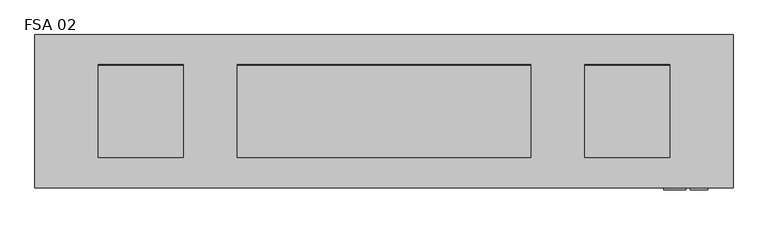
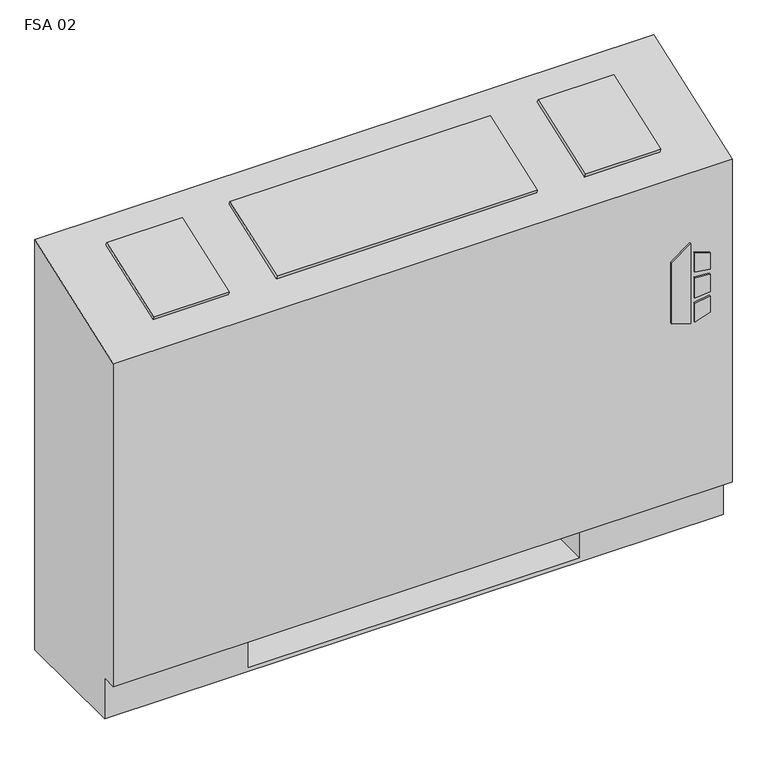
"""IFC4 building model written with IfcOpenShell, lengths in millimetres: proxy geometry, Vertical_Fan_Coil_Unit_-_FSA_-_IEC_-_2-Pipe_TS-FR_RH_2022 : FSA 02."""

from ifc_helpers import new_model, si_unit, point, frame, frame_2d, origin, place, context, project, spatial, polyline, circle_curve, trimmed, segment, composite_curve, outline, extrude, source, transform, mapped, element, save
from ifc_brep_helpers import plane_surface, revolved_surface, advanced_brep


def fsa_02_dba83e95(model_context):
    return source(origin(), model_context, "Body", "SolidModel", [
        extrude(outline(polyline([(391.6086829, 569.9868862), (381.6606126, 602.1602728), (523.831537, 602.1602728), (500.8095309, 569.9868862), (391.6086829, 569.9868862)])), frame((0.0, 12.7, 0.0), z_axis=(0.0, 1.0, 0.0), x_axis=(0.0, 0.0, 1.0)), (0.0, 0.0, 1.0), 3.175),
        extrude(outline(polyline([(470.6079683, 608.9186058), (467.4055757, 635.0), (496.6344168, 635.0), (504.6988318, 608.9186058), (470.6079683, 608.9186058)])), frame((0.0, 12.7, 0.0), z_axis=(0.0, 1.0, 0.0), x_axis=(0.0, 0.0, 1.0)), (0.0, 0.0, 1.0), 3.175),
        extrude(outline(polyline([(418.7444414, 635.0), (415.0789404, 608.9186058), (381.6606126, 608.9186058), (390.2948498, 635.0), (418.7444414, 635.0)])), frame((0.0, 12.7, 0.0), z_axis=(0.0, 1.0, 0.0), x_axis=(0.0, 0.0, 1.0)), (0.0, 0.0, 1.0), 3.175),
        extrude(outline(polyline([(458.0596028, 635.0), (460.3414292, 608.9186058), (424.4038806, 608.9186058), (427.1451456, 635.0), (458.0596028, 635.0)])), frame((0.0, 12.7, 0.0), z_axis=(0.0, 1.0, 0.0), x_axis=(0.0, 0.0, 1.0)), (0.0, 0.0, 1.0), 3.175),
        extrude(outline(polyline([(-247.65, 81.534), (-247.65, 223.266), (-127.0, 223.266), (-127.0, 81.534), (-247.65, 81.534)])), frame((0.0, 0.0, 327.025), z_axis=(0.0, 0.0, 1.0), x_axis=(1.0, 0.0, 0.0)), (0.0, 0.0, 1.0), 260.35),
        extrude(outline(composite_curve([segment(trimmed(circle_curve(frame_2d((495.3, 130.175)), 9.525), [point((485.775, 130.175))], [point((504.825, 130.175))], False, "CARTESIAN"), True, "CONTINUOUS"), segment(trimmed(circle_curve(frame_2d((495.3, 130.175)), 9.525), [point((504.825, 130.175))], [point((485.775, 130.175))], False, "CARTESIAN"), True, "CONTINUOUS")], self_intersect=False)), frame((0.0, 0.0, 101.6), z_axis=(0.0, 0.0, 1.0), x_axis=(1.0, 0.0, 0.0)), (0.0, 0.0, 1.0), 25.4),
        extrude(outline(polyline([(596.9, 196.85), (596.9, 63.5), (431.8, 63.5), (431.8, 196.85), (596.9, 196.85)])), frame((0.0, 0.0, 127.0), z_axis=(0.0, 0.0, 1.0), x_axis=(1.0, 0.0, 0.0)), (0.0, 0.0, 1.0), 50.8),
        extrude(outline(polyline([(0.0, -146.0500001), (0.0, 0.0), (127.0, 0.0), (127.0, -146.0500001), (0.0, -146.0500001)])), frame((-274.193, 200.4217127, 714.3418685), z_axis=(0.0, -0.3396444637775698, 0.9405538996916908), x_axis=(1.0, 0.0, 0.0)), (0.0, 0.0, 1.0), 6.35),
        extrude(outline(polyline([(0.0, -146.0500001), (0.0, 0.0), (438.15, 0.0), (438.15, -146.0500001), (0.0, -146.0500001)])), frame((371.475, 63.0538156, 664.7367945), z_axis=(0.0, -0.33964446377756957, 0.9405538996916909), x_axis=(-1.0, 0.0, 0.0)), (0.0, 0.0, 1.0), 6.35),
        extrude(outline(polyline([(0.0, -146.0500001), (0.0, 0.0), (127.0, 0.0), (127.0, -146.0500001), (0.0, -146.0500001)])), frame((578.993, 63.0538156, 664.7367945), z_axis=(0.0, -0.3396444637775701, 0.9405538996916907), x_axis=(-1.0, 0.0, 0.0)), (0.0, 0.0, 1.0), 6.35),
        extrude(outline(composite_curve([segment(trimmed(circle_curve(frame_2d((109.347, 456.819)), 7.9375), [point((109.347, 464.7565))], [point((109.347, 448.8815))], False, "CARTESIAN"), True, "CONTINUOUS"), segment(trimmed(circle_curve(frame_2d((109.347, 456.819)), 7.9375), [point((109.347, 448.8815))], [point((109.347, 464.7565))], False, "CARTESIAN"), True, "CONTINUOUS")], self_intersect=False)), frame((431.8, 0.0, 0.0), z_axis=(1.0, 0.0, 0.0), x_axis=(0.0, 1.0, 0.0)), (0.0, 0.0, 1.0), 50.8),
        extrude(outline(composite_curve([segment(trimmed(circle_curve(frame_2d((157.4546, 429.4632)), 7.9375), [point((157.4546, 437.4007))], [point((157.4546, 421.5257))], False, "CARTESIAN"), True, "CONTINUOUS"), segment(trimmed(circle_curve(frame_2d((157.4546, 429.4632)), 7.9375), [point((157.4546, 421.5257))], [point((157.4546, 437.4007))], False, "CARTESIAN"), True, "CONTINUOUS")], self_intersect=False)), frame((431.8, 0.0, 0.0), z_axis=(1.0, 0.0, 0.0), x_axis=(0.0, 1.0, 0.0)), (0.0, 0.0, 1.0), 50.8),
        advanced_brep(
        [(-368.3, 244.475, 0.0), (673.1, 244.475, 0.0), (673.1, 41.275, 0.0), (-368.3, 41.275, 0.0), (-368.3, 244.475, 730.25), (673.1, 244.475, 730.25), (431.8, 244.475, 73.025), (660.4, 244.475, 73.025), (660.4, 244.475, 654.05), (431.8, 244.475, 654.05), (431.8, 244.475, 414.8650565), (460.375, 244.475, 414.8650565), (460.375, 244.475, 385.2349435), (431.8, 244.475, 385.2349435), (431.8, 244.475, 287.3375), (460.375, 244.475, 287.3375), (460.375, 244.475, 258.7625), (431.8, 244.475, 258.7625), (431.8, 244.475, 141.2875), (460.375, 244.475, 141.2875), (460.375, 244.475, 112.7125), (431.8, 244.475, 112.7125), (-127.0, 244.475, 654.05), (-355.6, 244.475, 654.05), (-355.6, 244.475, 73.025), (-127.0, 244.475, 73.025), (-127.0, 244.475, 112.7125), (-155.575, 244.475, 112.7125), (-155.575, 244.475, 141.2875), (-127.0, 244.475, 141.2875), (-127.0, 244.475, 258.7625), (-155.575, 244.475, 258.7625), (-155.575, 244.475, 287.3375), (-127.0, 244.475, 287.3375), (-127.0, 244.475, 385.2349435), (-155.575, 244.475, 385.2349435), (-155.575, 244.475, 414.8650565), (-127.0, 244.475, 414.8650565), (450.0626, 244.475, 127.0), (438.9374, 244.475, 127.0), (450.0626, 244.475, 400.05), (438.9374, 244.475, 400.05), (450.0626, 244.475, 273.05), (438.9374, 244.475, 273.05), (-134.1374, 244.475, 127.0), (-145.2626, 244.475, 127.0), (-134.1374, 244.475, 273.05), (-145.2626, 244.475, 273.05), (-134.1374, 244.475, 400.05), (-145.2626, 244.475, 400.05), (-368.3, 41.275, 73.025), (-368.3, 15.875, 73.025), (-368.3, 15.875, 647.7), (673.1, 15.875, 73.025), (673.1, 15.875, 647.7), (673.1, 41.275, 73.025), (-127.0, 41.275, 73.025), (-127.0, 225.425, 73.025), (431.8, 225.425, 73.025), (431.8, 41.275, 73.025), (431.8, 41.275, 6.35), (-127.0, 41.275, 6.35), (431.8, 41.275, 654.05), (660.4, 41.275, 654.05), (660.4, 41.275, 73.025), (431.8, 41.275, 73.025), (-127.0, 41.275, 654.05), (-127.0, 41.275, 73.025), (-355.6, 41.275, 73.025), (-355.6, 41.275, 654.05), (431.8, 225.425, 73.025), (431.8, 238.125, 112.7125), (431.8, 238.125, 141.2875), (431.8, 238.125, 258.7625), (431.8, 238.125, 287.3375), (431.8, 238.125, 385.2349435), (431.8, 238.125, 414.8650565), (-127.0, 225.425, 73.025), (-127.0, 238.125, 414.8650565), (-127.0, 238.125, 385.2349435), (-127.0, 238.125, 287.3375), (-127.0, 238.125, 258.7625), (-127.0, 238.125, 141.2875), (-127.0, 238.125, 112.7125), (-127.0, 225.425, 6.35), (431.8, 225.425, 6.35), (460.375, 238.125, 112.7125), (460.375, 238.125, 141.2875), (438.9374, 238.125, 127.0), (450.0626, 238.125, 127.0), (460.375, 238.125, 258.7625), (460.375, 238.125, 287.3375), (438.9374, 238.125, 273.05), (450.0626, 238.125, 273.05), (460.375, 238.125, 385.2349435), (460.375, 238.125, 414.8650565), (438.9374, 238.125, 400.05), (450.0626, 238.125, 400.05), (-155.575, 238.125, 141.2875), (-155.575, 238.125, 112.7125), (-145.2626, 238.125, 127.0), (-134.1374, 238.125, 127.0), (-155.575, 238.125, 287.3375), (-155.575, 238.125, 258.7625), (-145.2626, 238.125, 273.05), (-134.1374, 238.125, 273.05), (-155.575, 238.125, 414.8650565), (-155.575, 238.125, 385.2349435), (-145.2626, 238.125, 400.05), (-134.1374, 238.125, 400.05)],
        [
            (0, 1),
            (1, 2),
            (2, 3),
            (3, 0),
            (0, 4),
            (4, 5),
            (5, 1),
            (6, 7),
            (7, 8),
            (8, 9),
            (9, 10),
            (10, 11),
            (11, 12),
            (12, 13),
            (13, 14),
            (14, 15),
            (15, 16),
            (16, 17),
            (17, 18),
            (18, 19),
            (19, 20),
            (20, 21),
            (21, 6),
            (22, 23),
            (23, 24),
            (24, 25),
            (25, 26),
            (26, 27),
            (27, 28),
            (28, 29),
            (29, 30),
            (30, 31),
            (31, 32),
            (32, 33),
            (33, 34),
            (34, 35),
            (35, 36),
            (36, 37),
            (37, 22),
            (38, 39, circle_curve(frame((444.5, 244.475, 127.0), z_axis=(0.0, -1.0, 0.0), x_axis=(-1.0, 0.0, 0.0)), 5.5626)),
            (39, 38, circle_curve(frame((444.5, 244.475, 127.0), z_axis=(0.0, -1.0, 0.0), x_axis=(-1.0, 0.0, 0.0)), 5.5626)),
            (40, 41, circle_curve(frame((444.5, 244.475, 400.05), z_axis=(0.0, -1.0, 0.0), x_axis=(-1.0, 0.0, 0.0)), 5.5626)),
            (41, 40, circle_curve(frame((444.5, 244.475, 400.05), z_axis=(0.0, -1.0, 0.0), x_axis=(-1.0, 0.0, 0.0)), 5.5626)),
            (42, 43, circle_curve(frame((444.5, 244.475, 273.05), z_axis=(0.0, -1.0, 0.0), x_axis=(-1.0, 0.0, 0.0)), 5.5626)),
            (43, 42, circle_curve(frame((444.5, 244.475, 273.05), z_axis=(0.0, -1.0, 0.0), x_axis=(-1.0, 0.0, 0.0)), 5.5626)),
            (44, 45, circle_curve(frame((-139.7, 244.475, 127.0), z_axis=(0.0, -1.0, 0.0), x_axis=(-1.0, 0.0, 0.0)), 5.5626)),
            (45, 44, circle_curve(frame((-139.7, 244.475, 127.0), z_axis=(0.0, -1.0, 0.0), x_axis=(-1.0, 0.0, 0.0)), 5.5626)),
            (46, 47, circle_curve(frame((-139.7, 244.475, 273.05), z_axis=(0.0, -1.0, 0.0), x_axis=(-1.0, 0.0, 0.0)), 5.5626)),
            (47, 46, circle_curve(frame((-139.7, 244.475, 273.05), z_axis=(0.0, -1.0, 0.0), x_axis=(-1.0, 0.0, 0.0)), 5.5626)),
            (48, 49, circle_curve(frame((-139.7, 244.475, 400.05), z_axis=(0.0, -1.0, 0.0), x_axis=(-1.0, 0.0, 0.0)), 5.5626)),
            (49, 48, circle_curve(frame((-139.7, 244.475, 400.05), z_axis=(0.0, -1.0, 0.0), x_axis=(-1.0, 0.0, 0.0)), 5.5626)),
            (3, 50),
            (50, 51),
            (51, 52),
            (52, 4),
            (51, 53),
            (53, 54),
            (54, 52),
            (5, 54),
            (53, 55),
            (55, 2),
            (50, 56),
            (56, 57),
            (57, 58),
            (58, 59),
            (59, 55),
            (59, 60),
            (60, 61),
            (61, 56),
            (62, 63),
            (63, 64),
            (64, 65),
            (65, 62),
            (66, 67),
            (67, 68),
            (68, 69),
            (69, 66),
            (65, 70),
            (70, 6),
            (21, 71),
            (71, 72),
            (72, 18),
            (17, 73),
            (73, 74),
            (74, 14),
            (13, 75),
            (75, 76),
            (76, 10),
            (9, 62),
            (64, 7),
            (63, 8),
            (69, 23),
            (22, 66),
            (68, 24),
            (67, 77),
            (77, 25),
            (37, 78),
            (78, 79),
            (79, 34),
            (33, 80),
            (80, 81),
            (81, 30),
            (29, 82),
            (82, 83),
            (83, 26),
            (57, 84),
            (84, 85),
            (85, 58),
            (85, 60),
            (84, 61),
            (71, 86),
            (86, 87),
            (87, 72),
            (88, 89, circle_curve(frame((444.5, 238.125, 127.0), z_axis=(0.0, 1.0, 0.0), x_axis=(-1.0, 0.0, 0.0)), 5.5626)),
            (89, 88, circle_curve(frame((444.5, 238.125, 127.0), z_axis=(0.0, 1.0, 0.0), x_axis=(-1.0, 0.0, 0.0)), 5.5626)),
            (73, 90),
            (90, 91),
            (91, 74),
            (92, 93, circle_curve(frame((444.5, 238.125, 273.05), z_axis=(0.0, 1.0, 0.0), x_axis=(-1.0, 0.0, 0.0)), 5.5626)),
            (93, 92, circle_curve(frame((444.5, 238.125, 273.05), z_axis=(0.0, 1.0, 0.0), x_axis=(-1.0, 0.0, 0.0)), 5.5626)),
            (75, 94),
            (94, 95),
            (95, 76),
            (96, 97, circle_curve(frame((444.5, 238.125, 400.05), z_axis=(0.0, 1.0, 0.0), x_axis=(-1.0, 0.0, 0.0)), 5.5626)),
            (97, 96, circle_curve(frame((444.5, 238.125, 400.05), z_axis=(0.0, 1.0, 0.0), x_axis=(-1.0, 0.0, 0.0)), 5.5626)),
            (98, 99),
            (99, 83),
            (82, 98),
            (100, 101, circle_curve(frame((-139.7, 238.125, 127.0), z_axis=(0.0, 1.0, 0.0), x_axis=(-1.0, 0.0, 0.0)), 5.5626)),
            (101, 100, circle_curve(frame((-139.7, 238.125, 127.0), z_axis=(0.0, 1.0, 0.0), x_axis=(-1.0, 0.0, 0.0)), 5.5626)),
            (102, 103),
            (103, 81),
            (80, 102),
            (104, 105, circle_curve(frame((-139.7, 238.125, 273.05), z_axis=(0.0, 1.0, 0.0), x_axis=(-1.0, 0.0, 0.0)), 5.5626)),
            (105, 104, circle_curve(frame((-139.7, 238.125, 273.05), z_axis=(0.0, 1.0, 0.0), x_axis=(-1.0, 0.0, 0.0)), 5.5626)),
            (106, 107),
            (107, 79),
            (78, 106),
            (108, 109, circle_curve(frame((-139.7, 238.125, 400.05), z_axis=(0.0, 1.0, 0.0), x_axis=(-1.0, 0.0, 0.0)), 5.5626)),
            (109, 108, circle_curve(frame((-139.7, 238.125, 400.05), z_axis=(0.0, 1.0, 0.0), x_axis=(-1.0, 0.0, 0.0)), 5.5626)),
            (87, 19),
            (86, 20),
            (91, 15),
            (90, 16),
            (95, 11),
            (94, 12),
            (28, 98),
            (99, 27),
            (32, 102),
            (103, 31),
            (36, 106),
            (107, 35),
            (88, 39),
            (38, 89),
            (96, 41),
            (40, 97),
            (92, 43),
            (42, 93),
            (100, 45),
            (44, 101),
            (104, 47),
            (46, 105),
            (108, 49),
            (48, 109),
        ],
        [
            plane_surface(frame((-368.3, 244.475, 0.0), z_axis=(0.0, 0.0, -1.0), x_axis=(1.0, 0.0, 0.0))),
            plane_surface(frame((673.1, 244.475, 730.25), z_axis=(0.0, 1.0, 0.0), x_axis=(0.0, 0.0, -1.0))),
            plane_surface(frame((-368.3, 244.475, 730.25), z_axis=(-1.0, 0.0, 0.0), x_axis=(0.0, 0.0, -1.0))),
            plane_surface(frame((-368.3, 15.875, 730.25), z_axis=(0.0, -1.0, 0.0), x_axis=(0.0, 0.0, -1.0))),
            plane_surface(frame((673.1, 15.875, 730.25), z_axis=(1.0, 0.0, 0.0), x_axis=(0.0, 0.0, -1.0))),
            plane_surface(frame((-368.3, 15.875, 73.025), z_axis=(0.0, 0.0, -1.0), x_axis=(1.0, 0.0, 0.0))),
            plane_surface(frame((-368.3, 41.275, 73.025), z_axis=(0.0, -1.0, 0.0), x_axis=(1.0, 0.0, 0.0))),
            plane_surface(frame((431.8, 41.275, 654.05), z_axis=(0.0, 1.0, 0.0), x_axis=(0.0, 0.0, -1.0))),
            plane_surface(frame((431.8, 41.275, 654.05), z_axis=(1.0, 0.0, 0.0), x_axis=(0.0, 1.0, 0.0))),
            plane_surface(frame((431.8, 41.275, 73.025), z_axis=(0.0, 0.0, 1.0), x_axis=(0.0, 1.0, 0.0))),
            plane_surface(frame((660.4, 41.275, 73.025), z_axis=(-1.0, 0.0, 0.0), x_axis=(0.0, 1.0, 0.0))),
            plane_surface(frame((660.4, 41.275, 654.05), z_axis=(0.0, 0.0, -1.0), x_axis=(0.0, 1.0, 0.0))),
            plane_surface(frame((-127.0, 41.275, 654.05), z_axis=(0.0, 0.0, -1.0), x_axis=(0.0, 1.0, 0.0))),
            plane_surface(frame((-355.6, 41.275, 654.05), z_axis=(1.0, 0.0, 0.0), x_axis=(0.0, 1.0, 0.0))),
            plane_surface(frame((-355.6, 41.275, 73.025), z_axis=(0.0, 0.0, 1.0), x_axis=(0.0, 1.0, 0.0))),
            plane_surface(frame((-127.0, 41.275, 73.025), z_axis=(-1.0, 0.0, 0.0), x_axis=(0.0, 1.0, 0.0))),
            plane_surface(frame((431.8, 225.425, 73.025), z_axis=(0.0, -1.0, 0.0), x_axis=(0.0, 0.0, -1.0))),
            plane_surface(frame((431.8, 225.425, 73.025), z_axis=(-1.0, 0.0, 0.0), x_axis=(0.0, -1.0, 0.0))),
            plane_surface(frame((431.8, 225.425, 6.35), z_axis=(0.0, 0.0, 1.0), x_axis=(0.0, -1.0, 0.0))),
            plane_surface(frame((-127.0, 225.425, 6.35), z_axis=(1.0, 0.0, 0.0), x_axis=(0.0, -1.0, 0.0))),
            plane_surface(frame((460.375, 238.125, 141.2875), z_axis=(0.0, -1.0, 0.0), x_axis=(-1.0, 0.0, 0.0))),
            plane_surface(frame((431.8, 244.475, 141.2875), z_axis=(0.0, 0.0, 1.0), x_axis=(0.0, -1.0, 0.0))),
            plane_surface(frame((460.375, 244.475, 141.2875), z_axis=(1.0, 0.0, 0.0), x_axis=(0.0, -1.0, 0.0))),
            plane_surface(frame((460.375, 244.475, 112.7125), z_axis=(0.0, 0.0, -1.0), x_axis=(0.0, -1.0, 0.0))),
            plane_surface(frame((431.8, 244.475, 287.3375), z_axis=(0.0, 0.0, 1.0), x_axis=(0.0, -1.0, 0.0))),
            plane_surface(frame((460.375, 244.475, 287.3375), z_axis=(1.0, 0.0, 0.0), x_axis=(0.0, -1.0, 0.0))),
            plane_surface(frame((460.375, 244.475, 258.7625), z_axis=(0.0, 0.0, -1.0), x_axis=(0.0, -1.0, 0.0))),
            plane_surface(frame((431.8, 244.475, 414.8650565), z_axis=(0.0, 0.0, 1.0), x_axis=(0.0, -1.0, 0.0))),
            plane_surface(frame((460.375, 244.475, 414.8650565), z_axis=(1.0, 0.0, 0.0), x_axis=(0.0, -1.0, 0.0))),
            plane_surface(frame((460.375, 244.475, 385.2349435), z_axis=(0.0, 0.0, -1.0), x_axis=(0.0, -1.0, 0.0))),
            plane_surface(frame((-155.575, 244.475, 141.2875), z_axis=(0.0, 0.0, 1.0), x_axis=(0.0, -1.0, 0.0))),
            plane_surface(frame((-127.0, 244.475, 112.7125), z_axis=(0.0, 0.0, -1.0), x_axis=(0.0, -1.0, 0.0))),
            plane_surface(frame((-155.575, 244.475, 112.7125), z_axis=(-1.0, 0.0, 0.0), x_axis=(0.0, -1.0, 0.0))),
            plane_surface(frame((-155.575, 244.475, 287.3375), z_axis=(0.0, 0.0, 1.0), x_axis=(0.0, -1.0, 0.0))),
            plane_surface(frame((-127.0, 244.475, 258.7625), z_axis=(0.0, 0.0, -1.0), x_axis=(0.0, -1.0, 0.0))),
            plane_surface(frame((-155.575, 244.475, 258.7625), z_axis=(-1.0, 0.0, 0.0), x_axis=(0.0, -1.0, 0.0))),
            plane_surface(frame((-155.575, 244.475, 414.8650565), z_axis=(0.0, 0.0, 1.0), x_axis=(0.0, -1.0, 0.0))),
            plane_surface(frame((-127.0, 244.475, 385.2349435), z_axis=(0.0, 0.0, -1.0), x_axis=(0.0, -1.0, 0.0))),
            plane_surface(frame((-155.575, 244.475, 385.2349435), z_axis=(-1.0, 0.0, 0.0), x_axis=(0.0, -1.0, 0.0))),
            revolved_surface(polyline([(438.9374, 238.125, 127.0), (438.9374, 244.475, 127.0)]), (444.5, 244.475, 127.0), (0.0, -1.0, 0.0)),
            revolved_surface(polyline([(438.9374, 238.125, 400.05), (438.9374, 244.475, 400.05)]), (444.5, 244.475, 400.05), (0.0, -1.0, 0.0)),
            revolved_surface(polyline([(438.9374, 238.125, 273.05), (438.9374, 244.475, 273.05)]), (444.5, 244.475, 273.05), (0.0, -1.0, 0.0)),
            revolved_surface(polyline([(-145.2626, 238.125, 127.0), (-145.2626, 244.475, 127.0)]), (-139.7, 244.475, 127.0), (0.0, -1.0, 0.0)),
            revolved_surface(polyline([(-145.2626, 238.125, 273.05), (-145.2626, 244.475, 273.05)]), (-139.7, 244.475, 273.05), (0.0, -1.0, 0.0)),
            revolved_surface(polyline([(-145.2626, 238.125, 400.05), (-145.2626, 244.475, 400.05)]), (-139.7, 244.475, 400.05), (0.0, -1.0, 0.0)),
            plane_surface(frame((-368.3, 244.475, 730.25), z_axis=(0.0, -0.33964446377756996, 0.9405538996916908), x_axis=(1.0, 0.0, 0.0))),
        ],
        [
            (0, [[1, 2, 3, 4]]),
            (1, [[-1, 5, 6, 7], [8, 9, 10, 11, 12, 13, 14, 15, 16, 17, 18, 19, 20, 21, 22, 23], [24, 25, 26, 27, 28, 29, 30, 31, 32, 33, 34, 35, 36, 37, 38, 39], [40, 41], [42, 43], [44, 45], [46, 47], [48, 49], [50, 51]]),
            (2, [[-5, -4, 52, 53, 54, 55]]),
            (3, [[56, 57, 58, -54]]),
            (4, [[-7, 59, -57, 60, 61, -2]]),
            (5, [[-53, 62, 63, 64, 65, 66, -60, -56]]),
            (6, [[-3, -61, -66, 67, 68, 69, -62, -52]]),
            (7, [[70, 71, 72, 73]]),
            (7, [[74, 75, 76, 77]]),
            (8, [[-73, 78, 79, -23, 80, 81, 82, -19, 83, 84, 85, -15, 86, 87, 88, -11, 89]]),
            (9, [[-72, 90, -8, -79, -78]]),
            (10, [[-71, 91, -9, -90]]),
            (11, [[-70, -89, -10, -91]]),
            (12, [[-77, 92, -24, 93]]),
            (13, [[-76, 94, -25, -92]]),
            (14, [[-75, 95, 96, -26, -94]]),
            (15, [[-74, -93, -39, 97, 98, 99, -35, 100, 101, 102, -31, 103, 104, 105, -27, -96, -95]]),
            (16, [[-64, 106, 107, 108]]),
            (17, [[-108, 109, -67, -65]]),
            (18, [[-107, 110, -68, -109]]),
            (19, [[-106, -63, -69, -110]]),
            (20, [[111, 112, 113, -81], [114, 115]]),
            (20, [[116, 117, 118, -84], [119, 120]]),
            (20, [[121, 122, 123, -87], [124, 125]]),
            (20, [[126, 127, -104, 128], [129, 130]]),
            (20, [[131, 132, -101, 133], [134, 135]]),
            (20, [[136, 137, -98, 138], [139, 140]]),
            (21, [[-113, 141, -20, -82]]),
            (22, [[-112, 142, -21, -141]]),
            (23, [[-111, -80, -22, -142]]),
            (24, [[-118, 143, -16, -85]]),
            (25, [[-117, 144, -17, -143]]),
            (26, [[-116, -83, -18, -144]]),
            (27, [[-123, 145, -12, -88]]),
            (28, [[-122, 146, -13, -145]]),
            (29, [[-121, -86, -14, -146]]),
            (30, [[-128, -103, -30, 147]]),
            (31, [[-127, 148, -28, -105]]),
            (32, [[-126, -147, -29, -148]]),
            (33, [[-133, -100, -34, 149]]),
            (34, [[-132, 150, -32, -102]]),
            (35, [[-131, -149, -33, -150]]),
            (36, [[-138, -97, -38, 151]]),
            (37, [[-137, 152, -36, -99]]),
            (38, [[-136, -151, -37, -152]]),
            (39, [[153, -40, 154, -114]]),
            (39, [[-153, -115, -154, -41]]),
            (40, [[155, -42, 156, -124]]),
            (40, [[-155, -125, -156, -43]]),
            (41, [[157, -44, 158, -119]]),
            (41, [[-157, -120, -158, -45]]),
            (42, [[159, -46, 160, -129]]),
            (42, [[-159, -130, -160, -47]]),
            (43, [[161, -48, 162, -134]]),
            (43, [[-161, -135, -162, -49]]),
            (44, [[163, -50, 164, -139]]),
            (44, [[-163, -140, -164, -51]]),
            (45, [[-6, -55, -58, -59]]),
        ],
    ),
    ])


if __name__ == "__main__":
    model = new_model("IFC4")
    model_context = context("Model", 3, world=origin())
    ifc_project = project(units=[si_unit("LENGTHUNIT", "METRE", prefix="MILLI")], contexts=[model_context])
    site = spatial("IfcSite", under=ifc_project)
    building = spatial("IfcBuilding", under=site)
    placement = place(None, origin())
    fsa_02_shape = fsa_02_dba83e95(model_context)
    element("IfcBuildingElementProxy", 1, Name="Vertical_Fan_Coil_Unit_-_FSA_-_IEC_-_2-Pipe_TS-FR_RH_2022 : FSA 02", ObjectType="Vertical_Fan_Coil_Unit_-_FSA_-_IEC_-_2-Pipe_TS-FR_RH_2022 : FSA 02", at=placement, inside=building, context=model_context, shape_type="MappedRepresentation", body=[
        mapped(fsa_02_shape, transform((0.0, 0.0, 0.0), x_axis=(1.0, 0.0, 0.0), y_axis=(0.0, 1.0, 0.0), z_axis=(0.0, 0.0, 1.0))),
    ])
    save(model, "model.ifc")
